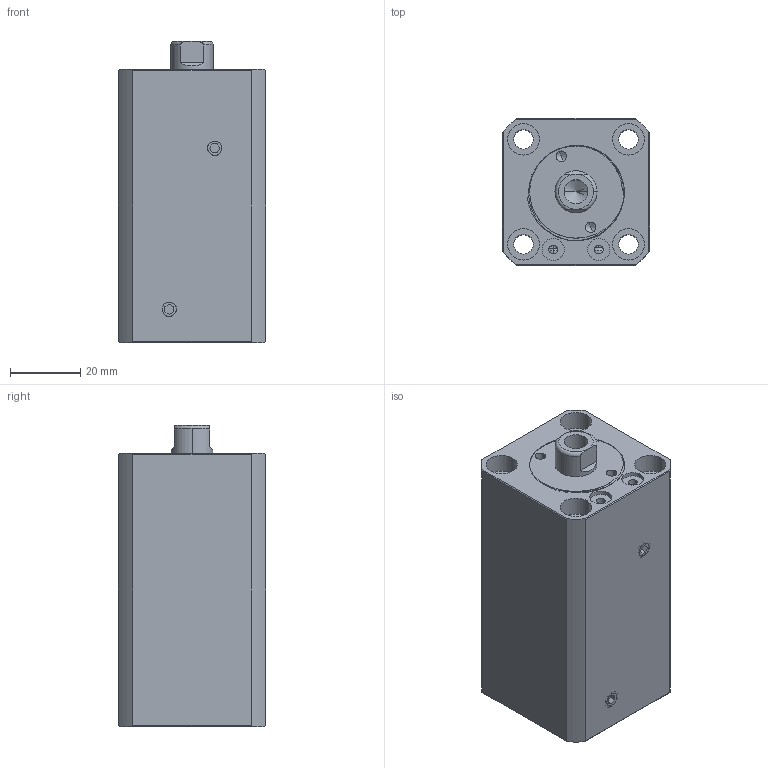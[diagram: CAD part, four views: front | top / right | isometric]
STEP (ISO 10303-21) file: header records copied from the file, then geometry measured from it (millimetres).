
FILE_DESCRIPTION (( 'STEP AP214' ), '1' );
FILE_NAME ('chtb-sdma20x35n_asm.STEP', '2018-05-18T05:49:05', ( '' ), ( '' ), 'SwSTEP 2.0', 'SolidWorks 2016', '' );
FILE_SCHEMA (( 'AUTOMOTIVE_DESIGN' ));
Length unit declared in the file: millimetre
Products named in the file (5): socket set screw flat point_iso_ISO 4026 - M5 x 5-N; QG_3; CHTB-SDMA20X35NHSG; CHTB-SDMA20X35NBT; chtb-sdma20x35n_asm
Assembly tree (5 placements, depth 2):
  chtb-sdma20x35n_asm
    CHTB-SDMA20X35NBT
    CHTB-SDMA20X35NHSG
    QG_3
    socket set screw flat point_iso_ISO 4026 - M5 x 5-N  x2
Bounding box: 42 x 42 x 86 mm (x, y, z)
Volume: 117064.3 mm3; surface area: 36642.7 mm2
Topology: 5 solids, 5 shells, 232 faces, 602 edges, 396 vertices
Faces by surface type: cylinder 111, plane 61, torus 25, bspline 21, cone 14
Entity records: 12042 total; most frequent: CARTESIAN_POINT 6742, ORIENTED_EDGE 1128, DIRECTION 1000, EDGE_CURVE 564, AXIS2_PLACEMENT_3D 415, VERTEX_POINT 376, EDGE_LOOP 256, FACE_OUTER_BOUND 217
